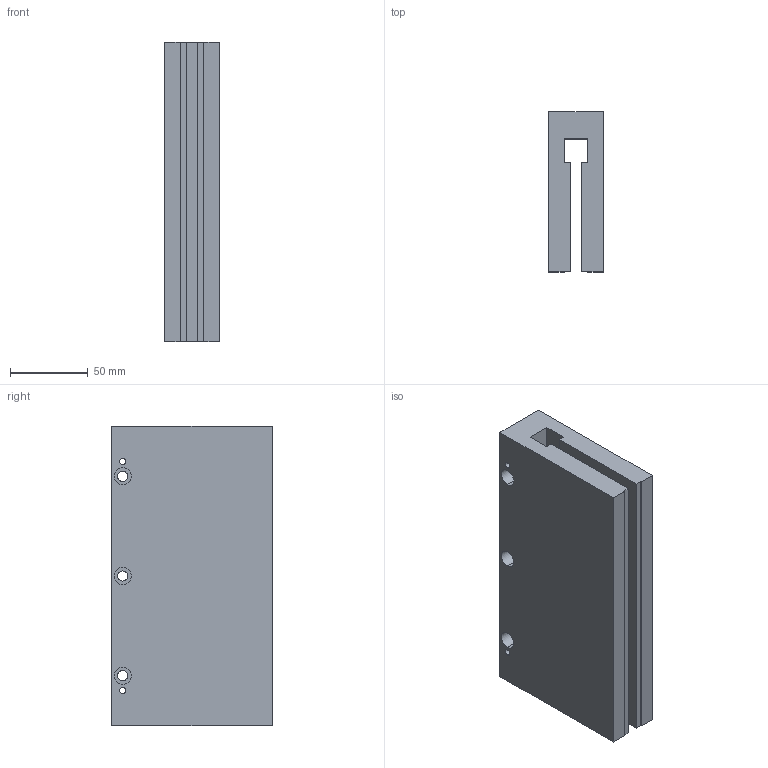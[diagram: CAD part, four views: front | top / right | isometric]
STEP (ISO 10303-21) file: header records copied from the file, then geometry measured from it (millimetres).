
FILE_DESCRIPTION (( 'STEP AP203' ), '1' );
FILE_NAME ('LMCCS1.STEP', '2007-05-14T12:09:08', ( 'MH0078' ), ( 'Hiwin MikroSystem Corp.' ), 'SwSTEP 2.0', 'SolidWorks 2007', '' );
FILE_SCHEMA (( 'CONFIG_CONTROL_DESIGN' ));
Length unit declared in the file: millimetre
Products named in the file (1): LMCCS1
Bounding box: 35.2 x 103 x 192 mm (x, y, z)
Volume: 546012.2 mm3; surface area: 98384.7 mm2
Topology: 1 solids, 1 shells, 46 faces, 114 edges, 76 vertices
Faces by surface type: plane 24, cylinder 22
Entity records: 1479 total; most frequent: DIRECTION 252, CARTESIAN_POINT 237, ORIENTED_EDGE 228, EDGE_CURVE 114, AXIS2_PLACEMENT_3D 91, VERTEX_POINT 76, VECTOR 70, LINE 70
